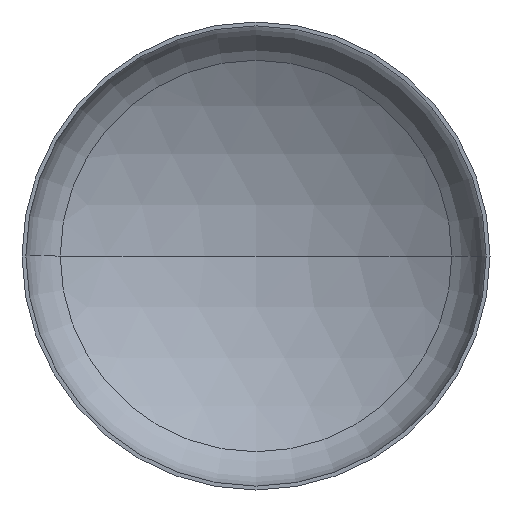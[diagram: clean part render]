
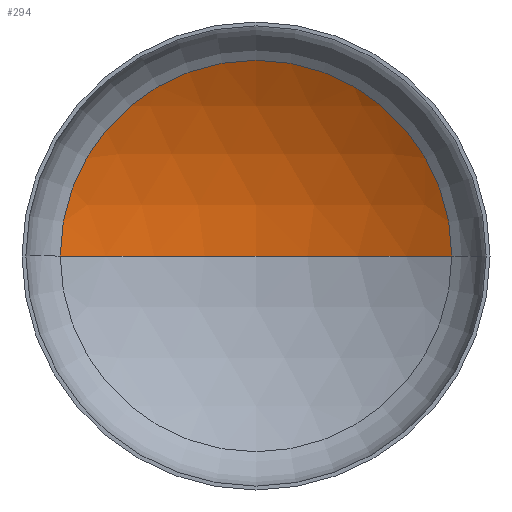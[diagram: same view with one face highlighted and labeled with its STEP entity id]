
A CAD part, front view. The second image highlights one B-rep face of the part: STEP entity #294.
In plain terms, the highlighted spherical face has radius 5200 mm.
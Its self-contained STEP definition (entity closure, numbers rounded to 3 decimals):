
#9 = ORIENTED_EDGE ( 'NONE', *, *, #152, .T. ) ;
#19 = VERTEX_POINT ( 'NONE', #250 ) ;
#35 = AXIS2_PLACEMENT_3D ( 'NONE', #171, #396, #147 ) ;
#47 = ORIENTED_EDGE ( 'NONE', *, *, #153, .T. ) ;
#52 = VERTEX_POINT ( 'NONE', #362 ) ;
#87 = AXIS2_PLACEMENT_3D ( 'NONE', #301, #112, #283 ) ;
#92 = EDGE_LOOP ( 'NONE', ( #115, #47, #9 ) ) ;
#95 = AXIS2_PLACEMENT_3D ( 'NONE', #374, #332, #183 ) ;
#100 = VERTEX_POINT ( 'NONE', #228 ) ;
#103 = AXIS2_PLACEMENT_3D ( 'NONE', #180, #187, #234 ) ;
#112 = DIRECTION ( 'NONE',  ( 0., 0., 1. ) ) ;
#115 = ORIENTED_EDGE ( 'NONE', *, *, #154, .F. ) ;
#128 = SPHERICAL_SURFACE ( 'NONE', #35, 5200. ) ;
#147 = DIRECTION ( 'NONE',  ( -1., 0., 0. ) ) ;
#152 = EDGE_CURVE ( 'NONE', #100, #19, #354, .T. ) ;
#153 = EDGE_CURVE ( 'NONE', #52, #100, #409, .T. ) ;
#154 = EDGE_CURVE ( 'NONE', #52, #19, #163, .T. ) ;
#163 = CIRCLE ( 'NONE', #87, 5200. ) ;
#171 = CARTESIAN_POINT ( 'NONE',  ( 0., -3460.165, 0. ) ) ;
#180 = CARTESIAN_POINT ( 'NONE',  ( 0., 972.42, 0. ) ) ;
#183 = DIRECTION ( 'NONE',  ( -1., 0., 0. ) ) ;
#187 = DIRECTION ( 'NONE',  ( 0., -1., 0. ) ) ;
#228 = CARTESIAN_POINT ( 'NONE',  ( 2718.857, 972.42, 0. ) ) ;
#234 = DIRECTION ( 'NONE',  ( 1., 0., 0. ) ) ;
#250 = CARTESIAN_POINT ( 'NONE',  ( -2718.857, 972.42, 0. ) ) ;
#271 = FACE_OUTER_BOUND ( 'NONE', #92, .T. ) ;
#283 = DIRECTION ( 'NONE',  ( 1., 0., 0. ) ) ;
#294 = ADVANCED_FACE ( 'NONE', ( #271 ), #128, .F. ) ;
#301 = CARTESIAN_POINT ( 'NONE',  ( 0., -3460.165, 0. ) ) ;
#332 = DIRECTION ( 'NONE',  ( 0., 0., -1. ) ) ;
#354 = CIRCLE ( 'NONE', #103, 2718.857 ) ;
#362 = CARTESIAN_POINT ( 'NONE',  ( 0., 1739.835, 0. ) ) ;
#374 = CARTESIAN_POINT ( 'NONE',  ( 0., -3460.165, 0. ) ) ;
#396 = DIRECTION ( 'NONE',  ( 0., 0., -1. ) ) ;
#409 = CIRCLE ( 'NONE', #95, 5200. ) ;
